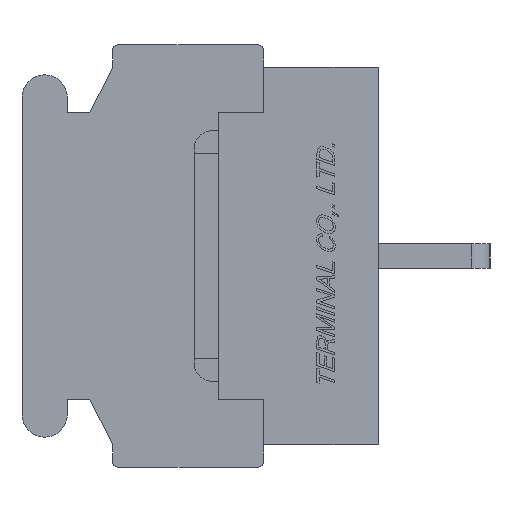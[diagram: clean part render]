
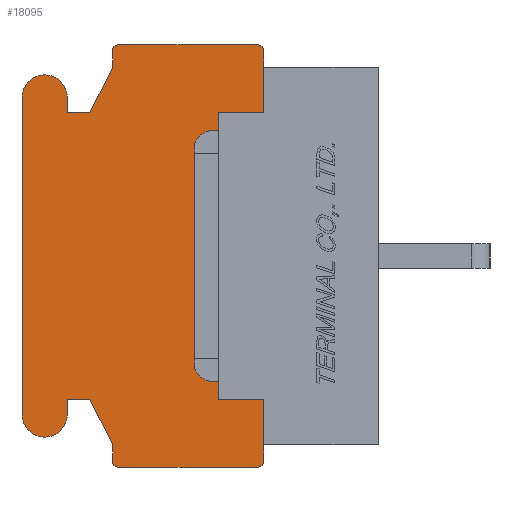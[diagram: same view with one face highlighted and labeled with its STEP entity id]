
A CAD part, left-side view. The second image highlights one B-rep face of the part: STEP entity #18095.
In plain terms, the highlighted planar face has unit normal (-1, 0, 0).
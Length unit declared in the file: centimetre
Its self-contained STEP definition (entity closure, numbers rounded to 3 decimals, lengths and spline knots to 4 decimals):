
#889=PLANE('',#29383);
#1862=VECTOR('',#19684,1.);
#2257=VECTOR('',#20212,1.);
#2260=VECTOR('',#20216,1.);
#2262=VECTOR('',#20219,1.);
#2263=VECTOR('',#20221,1.);
#2264=VECTOR('',#20223,1.);
#2265=VECTOR('',#20226,1.);
#2266=VECTOR('',#20229,1.);
#2267=VECTOR('',#20230,1.);
#2268=VECTOR('',#20231,1.);
#2269=VECTOR('',#20232,1.);
#2270=VECTOR('',#20235,1.);
#2271=VECTOR('',#20238,1.);
#2272=VECTOR('',#20239,1.);
#2273=VECTOR('',#20240,1.);
#2274=VECTOR('',#20241,1.);
#2275=VECTOR('',#20244,1.);
#2276=VECTOR('',#20247,1.);
#3864=LINE('',#24490,#1862);
#4259=LINE('',#25975,#2257);
#4262=LINE('',#25981,#2260);
#4264=LINE('',#25985,#2262);
#4265=LINE('',#25987,#2263);
#4266=LINE('',#25989,#2264);
#4267=LINE('',#25993,#2265);
#4268=LINE('',#25997,#2266);
#4269=LINE('',#25999,#2267);
#4270=LINE('',#26001,#2268);
#4271=LINE('',#26003,#2269);
#4272=LINE('',#26007,#2270);
#4273=LINE('',#26011,#2271);
#4274=LINE('',#26013,#2272);
#4275=LINE('',#26015,#2273);
#4276=LINE('',#26017,#2274);
#4277=LINE('',#26021,#2275);
#4278=LINE('',#26025,#2276);
#5805=VERTEX_POINT('',#24489);
#5806=VERTEX_POINT('',#24491);
#6140=VERTEX_POINT('',#25974);
#6141=VERTEX_POINT('',#25976);
#6142=VERTEX_POINT('',#25980);
#6143=VERTEX_POINT('',#25982);
#6144=VERTEX_POINT('',#25990);
#6145=VERTEX_POINT('',#25992);
#6146=VERTEX_POINT('',#25994);
#6147=VERTEX_POINT('',#25996);
#6148=VERTEX_POINT('',#25998);
#6149=VERTEX_POINT('',#26000);
#6150=VERTEX_POINT('',#26002);
#6151=VERTEX_POINT('',#26004);
#6152=VERTEX_POINT('',#26006);
#6153=VERTEX_POINT('',#26008);
#6154=VERTEX_POINT('',#26010);
#6155=VERTEX_POINT('',#26012);
#6156=VERTEX_POINT('',#26014);
#6157=VERTEX_POINT('',#26016);
#6158=VERTEX_POINT('',#26018);
#6159=VERTEX_POINT('',#26020);
#6160=VERTEX_POINT('',#26022);
#6161=VERTEX_POINT('',#26024);
#7108=CIRCLE('',#29384,0.02);
#7109=CIRCLE('',#29385,0.02);
#7110=CIRCLE('',#29386,0.075);
#7111=CIRCLE('',#29387,0.075);
#7112=CIRCLE('',#29388,0.02);
#7113=CIRCLE('',#29389,0.02);
#8155=EDGE_CURVE('',#5806,#5805,#3864,.T.);
#8656=EDGE_CURVE('',#6141,#6140,#4259,.T.);
#8659=EDGE_CURVE('',#6143,#6142,#4262,.T.);
#8661=EDGE_CURVE('',#6142,#5806,#4264,.T.);
#8662=EDGE_CURVE('',#5805,#6141,#4265,.T.);
#8663=EDGE_CURVE('',#6144,#6140,#4266,.T.);
#8664=EDGE_CURVE('',#6145,#6144,#7108,.T.);
#8665=EDGE_CURVE('',#6146,#6145,#4267,.T.);
#8666=EDGE_CURVE('',#6147,#6146,#7109,.T.);
#8667=EDGE_CURVE('',#6148,#6147,#4268,.T.);
#8668=EDGE_CURVE('',#6149,#6148,#4269,.T.);
#8669=EDGE_CURVE('',#6150,#6149,#4270,.T.);
#8670=EDGE_CURVE('',#6151,#6150,#4271,.T.);
#8671=EDGE_CURVE('',#6152,#6151,#7110,.T.);
#8672=EDGE_CURVE('',#6153,#6152,#4272,.T.);
#8673=EDGE_CURVE('',#6154,#6153,#7111,.T.);
#8674=EDGE_CURVE('',#6155,#6154,#4273,.T.);
#8675=EDGE_CURVE('',#6156,#6155,#4274,.T.);
#8676=EDGE_CURVE('',#6157,#6156,#4275,.T.);
#8677=EDGE_CURVE('',#6158,#6157,#4276,.T.);
#8678=EDGE_CURVE('',#6159,#6158,#7112,.T.);
#8679=EDGE_CURVE('',#6160,#6159,#4277,.T.);
#8680=EDGE_CURVE('',#6161,#6160,#7113,.T.);
#8681=EDGE_CURVE('',#6143,#6161,#4278,.T.);
#12624=ORIENTED_EDGE('',*,*,#8659,.T.);
#12625=ORIENTED_EDGE('',*,*,#8661,.T.);
#12626=ORIENTED_EDGE('',*,*,#8155,.T.);
#12627=ORIENTED_EDGE('',*,*,#8662,.T.);
#12628=ORIENTED_EDGE('',*,*,#8656,.T.);
#12629=ORIENTED_EDGE('',*,*,#8663,.F.);
#12630=ORIENTED_EDGE('',*,*,#8664,.F.);
#12631=ORIENTED_EDGE('',*,*,#8665,.F.);
#12632=ORIENTED_EDGE('',*,*,#8666,.F.);
#12633=ORIENTED_EDGE('',*,*,#8667,.F.);
#12634=ORIENTED_EDGE('',*,*,#8668,.F.);
#12635=ORIENTED_EDGE('',*,*,#8669,.F.);
#12636=ORIENTED_EDGE('',*,*,#8670,.F.);
#12637=ORIENTED_EDGE('',*,*,#8671,.F.);
#12638=ORIENTED_EDGE('',*,*,#8672,.F.);
#12639=ORIENTED_EDGE('',*,*,#8673,.F.);
#12640=ORIENTED_EDGE('',*,*,#8674,.F.);
#12641=ORIENTED_EDGE('',*,*,#8675,.F.);
#12642=ORIENTED_EDGE('',*,*,#8676,.F.);
#12643=ORIENTED_EDGE('',*,*,#8677,.F.);
#12644=ORIENTED_EDGE('',*,*,#8678,.F.);
#12645=ORIENTED_EDGE('',*,*,#8679,.F.);
#12646=ORIENTED_EDGE('',*,*,#8680,.F.);
#12647=ORIENTED_EDGE('',*,*,#8681,.F.);
#15967=EDGE_LOOP('',(#12624,#12625,#12626,#12627,#12628,#12629,#12630,#12631,
#12632,#12633,#12634,#12635,#12636,#12637,#12638,#12639,#12640,#12641,#12642,
#12643,#12644,#12645,#12646,#12647));
#17057=FACE_BOUND('',#15967,.T.);
#18095=ADVANCED_FACE('',(#17057),#889,.F.);
#19684=DIRECTION('',(0.,0.,1.));
#20212=DIRECTION('',(0.,0.,1.));
#20216=DIRECTION('',(0.,0.,1.));
#20219=DIRECTION('',(0.,1.,0.));
#20221=DIRECTION('',(0.,-1.,0.));
#20222=DIRECTION('',(1.,0.,0.));
#20223=DIRECTION('',(0.,0.,-1.));
#20224=DIRECTION('',(1.,0.,0.));
#20225=DIRECTION('',(0.,0.,-0.02));
#20226=DIRECTION('',(0.,-1.,0.));
#20227=DIRECTION('',(1.,0.,0.));
#20228=DIRECTION('',(0.,0.,-0.02));
#20229=DIRECTION('',(0.,0.,1.));
#20230=DIRECTION('',(0.,-0.447,0.894));
#20231=DIRECTION('',(0.,-1.,0.));
#20232=DIRECTION('',(0.,0.,-1.));
#20233=DIRECTION('',(1.,0.,0.));
#20234=DIRECTION('',(0.,0.,-0.075));
#20235=DIRECTION('',(0.,0.,1.));
#20236=DIRECTION('',(1.,0.,0.));
#20237=DIRECTION('',(0.,0.,-0.075));
#20238=DIRECTION('',(0.,0.,-1.));
#20239=DIRECTION('',(0.,1.,0.));
#20240=DIRECTION('',(0.,0.447,0.894));
#20241=DIRECTION('',(0.,0.,1.));
#20242=DIRECTION('',(1.,0.,0.));
#20243=DIRECTION('',(0.,0.,-0.02));
#20244=DIRECTION('',(0.,1.,0.));
#20245=DIRECTION('',(1.,0.,0.));
#20246=DIRECTION('',(0.,0.,-0.02));
#20247=DIRECTION('',(0.,0.,-1.));
#24489=CARTESIAN_POINT('',(-0.762,0.53,0.475));
#24490=CARTESIAN_POINT('',(-0.762,0.53,0.));
#24491=CARTESIAN_POINT('',(-0.762,0.53,-0.475));
#25974=CARTESIAN_POINT('',(-0.762,0.38,0.625));
#25975=CARTESIAN_POINT('',(-0.762,0.38,0.275));
#25976=CARTESIAN_POINT('',(-0.762,0.38,0.475));
#25980=CARTESIAN_POINT('',(-0.762,0.38,-0.475));
#25981=CARTESIAN_POINT('',(-0.762,0.38,-0.275));
#25982=CARTESIAN_POINT('',(-0.762,0.38,-0.625));
#25985=CARTESIAN_POINT('',(-0.762,0.5304,-0.475));
#25987=CARTESIAN_POINT('',(-0.762,0.5304,0.475));
#25988=CARTESIAN_POINT('',(-0.762,0.6059,0.));
#25989=CARTESIAN_POINT('',(-0.762,0.38,0.68));
#25990=CARTESIAN_POINT('',(-0.762,0.38,0.68));
#25991=CARTESIAN_POINT('',(-0.762,0.4,0.68));
#25992=CARTESIAN_POINT('',(-0.762,0.4,0.7));
#25993=CARTESIAN_POINT('',(-0.762,0.86,0.7));
#25994=CARTESIAN_POINT('',(-0.762,0.86,0.7));
#25995=CARTESIAN_POINT('',(-0.762,0.86,0.68));
#25996=CARTESIAN_POINT('',(-0.762,0.88,0.68));
#25997=CARTESIAN_POINT('',(-0.762,0.88,0.625));
#25998=CARTESIAN_POINT('',(-0.762,0.88,0.625));
#25999=CARTESIAN_POINT('',(-0.762,0.955,0.475));
#26000=CARTESIAN_POINT('',(-0.762,0.955,0.475));
#26001=CARTESIAN_POINT('',(-0.762,1.03,0.475));
#26002=CARTESIAN_POINT('',(-0.762,1.03,0.475));
#26003=CARTESIAN_POINT('',(-0.762,1.03,0.525));
#26004=CARTESIAN_POINT('',(-0.762,1.03,0.525));
#26005=CARTESIAN_POINT('',(-0.762,1.105,0.525));
#26006=CARTESIAN_POINT('',(-0.762,1.18,0.525));
#26007=CARTESIAN_POINT('',(-0.762,1.18,-0.525));
#26008=CARTESIAN_POINT('',(-0.762,1.18,-0.525));
#26009=CARTESIAN_POINT('',(-0.762,1.105,-0.525));
#26010=CARTESIAN_POINT('',(-0.762,1.03,-0.525));
#26011=CARTESIAN_POINT('',(-0.762,1.03,-0.475));
#26012=CARTESIAN_POINT('',(-0.762,1.03,-0.475));
#26013=CARTESIAN_POINT('',(-0.762,0.955,-0.475));
#26014=CARTESIAN_POINT('',(-0.762,0.955,-0.475));
#26015=CARTESIAN_POINT('',(-0.762,0.88,-0.625));
#26016=CARTESIAN_POINT('',(-0.762,0.88,-0.625));
#26017=CARTESIAN_POINT('',(-0.762,0.88,-0.68));
#26018=CARTESIAN_POINT('',(-0.762,0.88,-0.68));
#26019=CARTESIAN_POINT('',(-0.762,0.86,-0.68));
#26020=CARTESIAN_POINT('',(-0.762,0.86,-0.7));
#26021=CARTESIAN_POINT('',(-0.762,0.4,-0.7));
#26022=CARTESIAN_POINT('',(-0.762,0.4,-0.7));
#26023=CARTESIAN_POINT('',(-0.762,0.4,-0.68));
#26024=CARTESIAN_POINT('',(-0.762,0.38,-0.68));
#26025=CARTESIAN_POINT('',(-0.762,0.38,-0.625));
#29383=AXIS2_PLACEMENT_3D('',#25988,#20222,$);
#29384=AXIS2_PLACEMENT_3D('',#25991,#20224,#20225);
#29385=AXIS2_PLACEMENT_3D('',#25995,#20227,#20228);
#29386=AXIS2_PLACEMENT_3D('',#26005,#20233,#20234);
#29387=AXIS2_PLACEMENT_3D('',#26009,#20236,#20237);
#29388=AXIS2_PLACEMENT_3D('',#26019,#20242,#20243);
#29389=AXIS2_PLACEMENT_3D('',#26023,#20245,#20246);
